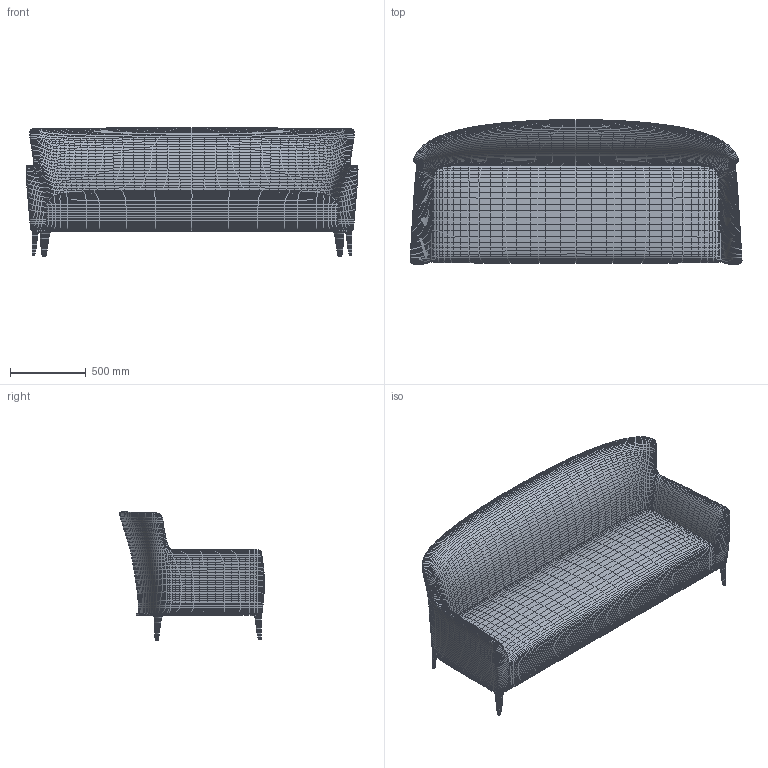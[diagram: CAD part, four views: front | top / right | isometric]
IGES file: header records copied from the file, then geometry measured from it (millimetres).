
Global section: file name: C:\Users\alberto\Dropbox\POLIFORM 3D model archive share\3dmodels repository\Poliform GENTLEMAN FRIENDS sofa\Poliform GENTLEMAN FRIENDS sofa.igs; native system: Rhinoceros ( May 22 2017 ); preprocessor: Trout Lake IGES 012 May 22 2017; date: 190520.115820; units: millimetre
Bounding box: 2198.34 x 958.53 x 849.69 mm (x, y, z)
Surface area: 8990385.5 mm2 (no closed solid volume)
Topology: 0 solids, 0 shells, 28902 faces, 115586 edges, 115586 vertices
Faces by surface type: bspline 28902
